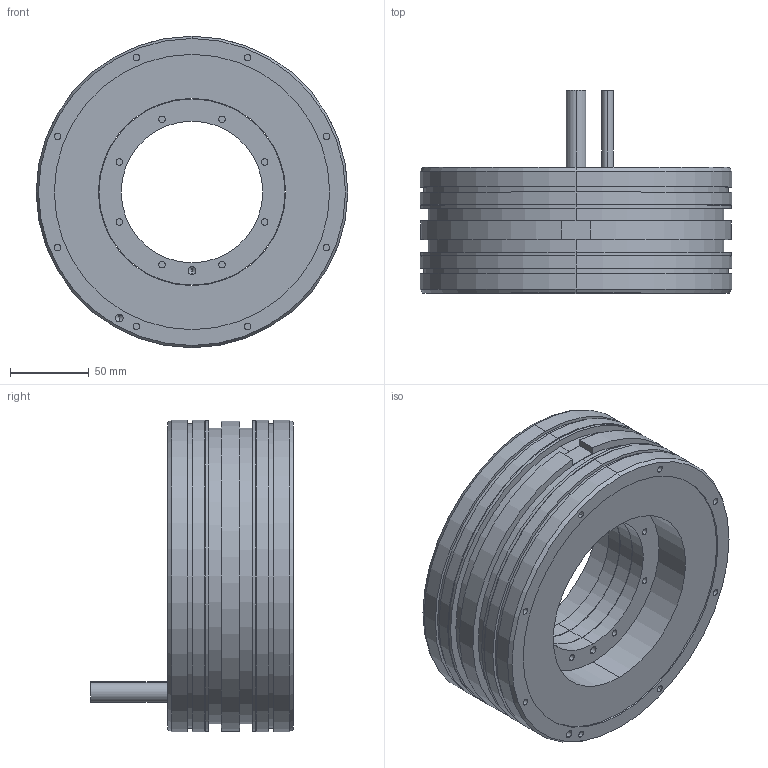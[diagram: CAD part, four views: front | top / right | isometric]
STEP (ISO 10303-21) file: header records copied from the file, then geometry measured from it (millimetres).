
FILE_DESCRIPTION (( 'STEP AP203' ), '1' );
FILE_NAME ('TM-2-23.STEP', '2020-10-20T05:36:27', ( '' ), ( '' ), 'SwSTEP 2.0', 'SolidWorks 2015', '' );
FILE_SCHEMA (( 'CONFIG_CONTROL_DESIGN' ));
Length unit declared in the file: millimetre
Products named in the file (3): TM-2-23; TM-2-2X_rotor_TM-2-23_rotor; TM-2-2X_stator_TM-2-23_stator
Assembly tree (2 placements, depth 2):
  TM-2-23
    TM-2-2X_stator_TM-2-23_stator
    TM-2-2X_rotor_TM-2-23_rotor
Bounding box: 198 x 129 x 198 mm (x, y, z)
Volume: 1630323 mm3; surface area: 172704.9 mm2
Topology: 2 solids, 2 shells, 181 faces, 375 edges, 238 vertices
Faces by surface type: cylinder 112, plane 53, cone 16
Entity records: 5142 total; most frequent: DIRECTION 967, CARTESIAN_POINT 791, ORIENTED_EDGE 734, AXIS2_PLACEMENT_3D 414, EDGE_CURVE 367, VERTEX_POINT 238, EDGE_LOOP 233, CIRCLE 228
